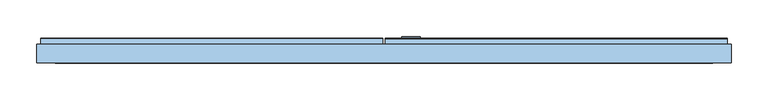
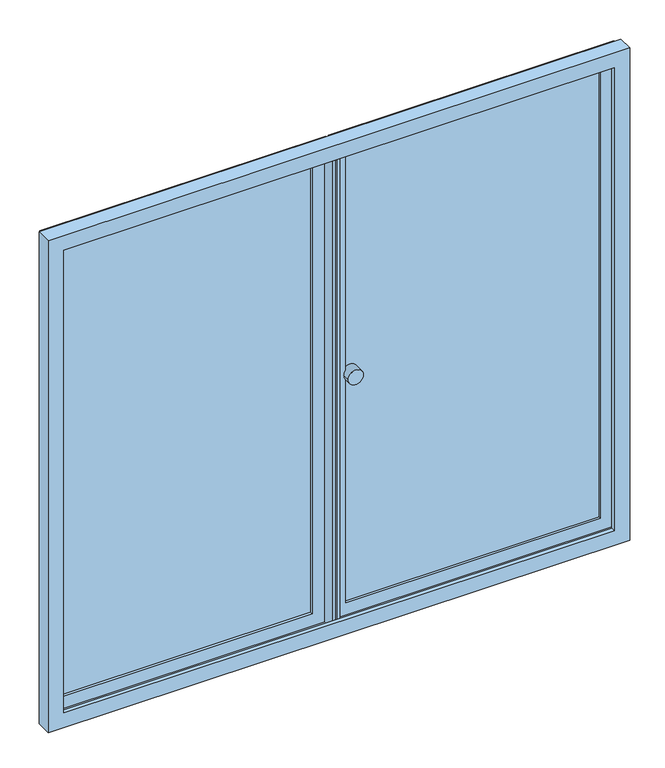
"""IFC4 building model written with IfcOpenShell, lengths in millimetres: window geometry, H108 Puertas nichos : H108.2 Puerta nicho 95x85."""

from ifc_helpers import new_model, si_unit, point, frame, frame_2d, origin, place, context, project, spatial, polyline, circle_curve, trimmed, segment, composite_curve, outline, extrude, faceted_brep, source, transform, mapped, element, save


def window_3585451b(model_context):
    return source(origin(), model_context, "Body", "SolidModel", [
        extrude(outline(composite_curve([segment(trimmed(circle_curve(frame_2d((1225.0, 37.0)), 12.5), [point((1225.0, 24.5))], [point((1225.0, 49.5))], False, "CARTESIAN"), True, "CONTINUOUS"), segment(trimmed(circle_curve(frame_2d((1225.0, 37.0)), 12.5), [point((1225.0, 49.5))], [point((1225.0, 24.5))], False, "CARTESIAN"), True, "CONTINUOUS")], self_intersect=False)), frame((0.0, 35.7, 0.0), z_axis=(0.0, 1.0, 0.0), x_axis=(0.0, 0.0, 1.0)), (0.0, 0.0, 1.0), 20.0),
        faceted_brep([(-475.0, 19.7, 1650.0), (-475.0, 45.1, 1650.0), (-475.0, 45.1, 800.0), (-475.0, 19.7, 800.0), (475.0, 45.1, 1650.0), (475.0, 45.1, 800.0), (-469.0, 45.1, 806.0), (469.0, 45.1, 806.0), (469.0, 45.1, 1644.0), (-469.0, 45.1, 1644.0), (475.0, 19.7, 800.0), (475.0, 19.7, 1650.0), (-449.6, 19.7, 1624.6), (449.6, 19.7, 1624.6), (449.6, 19.7, 825.4), (-449.6, 19.7, 825.4), (-469.0, 25.7, 1644.0), (-469.0, 25.7, 806.0), (469.0, 25.7, 1644.0), (469.0, 25.7, 806.0), (-449.6, 25.7, 825.4), (449.6, 25.7, 825.4), (449.6, 25.7, 1624.6), (-449.6, 25.7, 1624.6)], [[[0, 1, 2, 3]], [[1, 4, 5, 2], [6, 7, 8, 9]], [[3, 2, 5, 10]], [[3, 10, 11, 0], [12, 13, 14, 15]], [[9, 16, 17, 6]], [[16, 18, 19, 17], [20, 21, 22, 23]], [[6, 17, 19, 7]], [[23, 12, 15, 20]], [[20, 15, 14, 21]], [[10, 5, 4, 11]], [[7, 19, 18, 8]], [[21, 14, 13, 22]], [[11, 4, 1, 0]], [[8, 18, 16, 9]], [[22, 13, 12, 23]]]),
        faceted_brep([(-2.0, 52.4, 1644.0), (-2.0, 27.0, 1644.0), (-2.0, 27.0, 806.0), (-2.0, 52.4, 806.0), (-469.0, 27.0, 1644.0), (-469.0, 27.0, 806.0), (-6.5, 27.0, 810.5), (-464.5, 27.0, 810.5), (-464.5, 27.0, 1639.5), (-6.5, 27.0, 1639.5), (-469.0, 52.4, 806.0), (-469.0, 52.4, 1644.0), (-27.4, 52.4, 1618.6), (-443.6, 52.4, 1618.6), (-443.6, 52.4, 831.4), (-27.4, 52.4, 831.4), (-6.5, 47.9, 1639.5), (-6.5, 47.9, 810.5), (-464.5, 47.9, 1639.5), (-464.5, 47.9, 810.5), (-27.4, 47.9, 831.4), (-443.6, 47.9, 831.4), (-443.6, 47.9, 1618.6), (-27.4, 47.9, 1618.6)], [[[0, 1, 2, 3]], [[1, 4, 5, 2], [6, 7, 8, 9]], [[3, 2, 5, 10]], [[3, 10, 11, 0], [12, 13, 14, 15]], [[9, 16, 17, 6]], [[16, 18, 19, 17], [20, 21, 22, 23]], [[6, 17, 19, 7]], [[23, 12, 15, 20]], [[20, 15, 14, 21]], [[10, 5, 4, 11]], [[7, 19, 18, 8]], [[21, 14, 13, 22]], [[11, 4, 1, 0]], [[8, 18, 16, 9]], [[22, 13, 12, 23]]]),
        extrude(outline(polyline([(-2.0, 52.4), (-469.0, 52.4), (-469.0, 53.7), (-2.0, 53.7), (-2.0, 52.4)])), frame((0.0, 0.0, 806.0), z_axis=(0.0, 0.0, 1.0), x_axis=(1.0, 0.0, 0.0)), (0.0, 0.0, 1.0), 838.0),
        extrude(outline(polyline([(2.0, 53.7), (469.0, 53.7), (469.0, 52.4), (2.0, 52.4), (2.0, 53.7)])), frame((0.0, 0.0, 806.0), z_axis=(0.0, 0.0, 1.0), x_axis=(1.0, 0.0, 0.0)), (0.0, 0.0, 1.0), 838.0),
        faceted_brep([(27.4, 52.4, 1618.6), (27.4, 47.9, 1618.6), (27.4, 47.9, 831.4), (27.4, 52.4, 831.4), (6.5, 47.9, 810.5), (464.5, 47.9, 810.5), (464.5, 47.9, 1639.5), (6.5, 47.9, 1639.5), (443.6, 47.9, 1618.6), (443.6, 47.9, 831.4), (443.6, 52.4, 831.4), (2.0, 52.4, 1644.0), (469.0, 52.4, 1644.0), (469.0, 52.4, 806.0), (2.0, 52.4, 806.0), (443.6, 52.4, 1618.6), (6.5, 27.0, 1639.5), (6.5, 27.0, 810.5), (2.0, 27.0, 806.0), (469.0, 27.0, 806.0), (469.0, 27.0, 1644.0), (2.0, 27.0, 1644.0), (464.5, 27.0, 1639.5), (464.5, 27.0, 810.5)], [[[0, 1, 2, 3]], [[4, 5, 6, 7], [1, 8, 9, 2]], [[3, 2, 9, 10]], [[11, 12, 13, 14], [3, 10, 15, 0]], [[7, 16, 17, 4]], [[18, 19, 20, 21], [16, 22, 23, 17]], [[4, 17, 23, 5]], [[21, 11, 14, 18]], [[18, 14, 13, 19]], [[10, 9, 8, 15]], [[5, 23, 22, 6]], [[19, 13, 12, 20]], [[15, 8, 1, 0]], [[6, 22, 16, 7]], [[20, 12, 11, 21]]]),
    ])


if __name__ == "__main__":
    model = new_model("IFC4")
    model_context = context("Model", 3, world=origin())
    ifc_project = project(units=[si_unit("LENGTHUNIT", "METRE", prefix="MILLI")], contexts=[model_context])
    site = spatial("IfcSite", under=ifc_project)
    building = spatial("IfcBuilding", under=site)
    placement = place(None, origin())
    window_shape = window_3585451b(model_context)
    element("IfcWindow", 1, ObjectType="H108 Puertas nichos : H108.2 Puerta nicho 95x85", at=placement, inside=building, context=model_context, shape_type="MappedRepresentation", body=[
        mapped(window_shape, transform((0.0, 0.0, 0.0), x_axis=(1.0, 0.0, 0.0), y_axis=(0.0, 1.0, 0.0), z_axis=(0.0, 0.0, 1.0))),
    ])
    save(model, "model.ifc")
